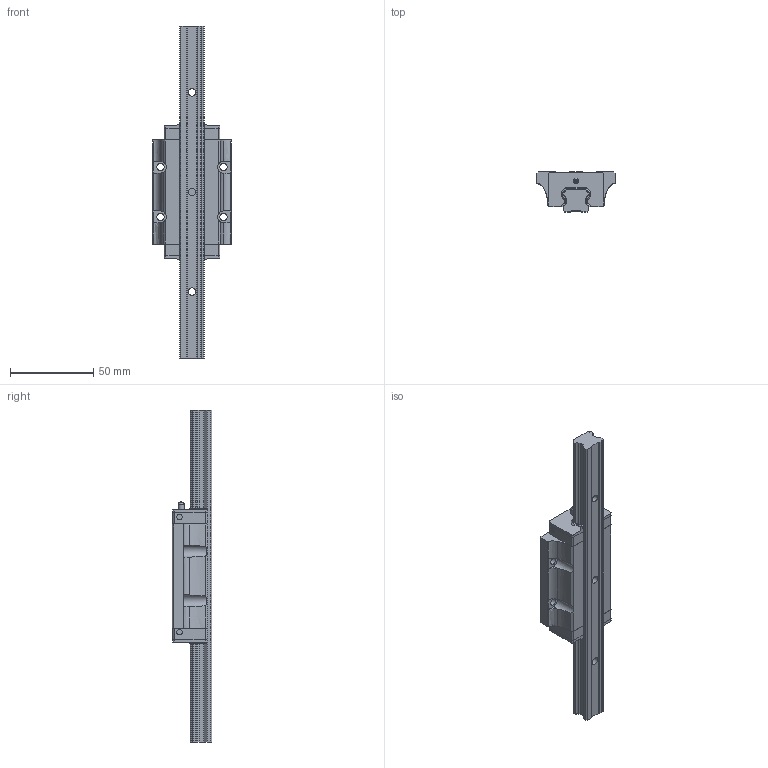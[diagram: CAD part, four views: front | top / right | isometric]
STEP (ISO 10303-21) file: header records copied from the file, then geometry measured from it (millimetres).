
FILE_DESCRIPTION((''),'2;1');
FILE_NAME('C:\Documents and Settings\土屋\My Documents\土屋移動用フォルダ\製品 (図面)\カタログ用3D\リニアガイド\EGH-FL\EGH15FL.stp','2015-12-16T09:23:18',('y'),(''),'Autodesk Inventor 11','Autodesk Inventor 11','');
FILE_SCHEMA(('AUTOMOTIVE_DESIGN { 1 0 10303 214 1 1 1 1 }'));
Length unit declared in the file: millimetre
Products named in the file (3): EGH15FL; EGH15FLレール; EGH15FLキャリッジ
Assembly tree (2 placements, depth 2):
  EGH15FL
    EGH15FLレール
    EGH15FLキャリッジ
Bounding box: 47 x 24 x 200 mm (x, y, z)
Volume: 84976.8 mm3; surface area: 30660.2 mm2
Topology: 7 solids, 7 shells, 328 faces, 897 edges, 591 vertices
Faces by surface type: plane 177, cylinder 113, cone 24, bspline 12, sphere 2
Full cylindrical faces by diameter (mm): 3 x3, 3.3 x6, 3.5 x1, 4.4 x4, 4.5 x3, 7.5 x3
Entity records: 10843 total; most frequent: CARTESIAN_POINT 2340, DIRECTION 1754, ORIENTED_EDGE 1742, EDGE_CURVE 871, AXIS2_PLACEMENT_3D 594, VERTEX_POINT 591, VECTOR 566, LINE 566
